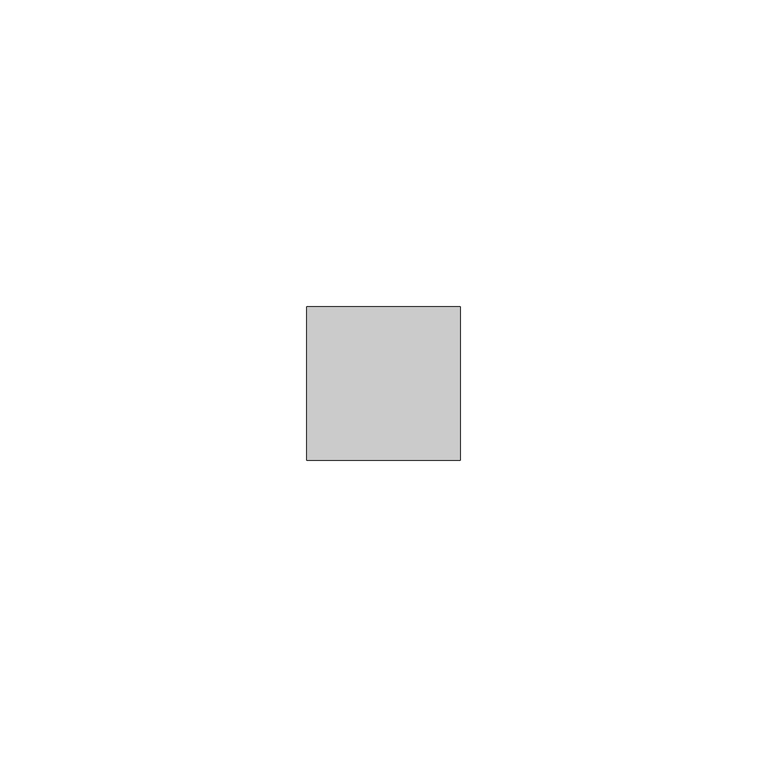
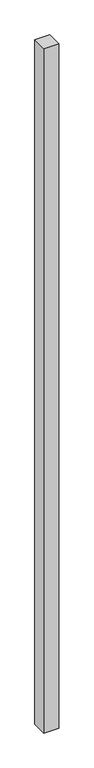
"""IFC4 building model written with IfcOpenShell, lengths in millimetres: member geometry, Obdélníková příčel : VERTI AERO."""

from ifc_helpers import new_model, si_unit, frame, origin, place, context, project, spatial, polyline, outline, extrude, source, transform, mapped, element, save


def member_ca8d964d(model_context):
    return source(origin(), model_context, "Body", "SweptSolid", [
        extrude(outline(polyline([(0.0, 12.5), (0.0, -12.5), (-25.0, -12.5), (-25.0, 12.5), (0.0, 12.5)])), frame((0.0, 0.0, -1200.0), z_axis=(0.0, 0.0, 1.0), x_axis=(1.0, 0.0, 0.0)), (0.0, 0.0, 1.0), 1200.0),
    ])


if __name__ == "__main__":
    model = new_model("IFC4")
    model_context = context("Model", 3, world=origin())
    ifc_project = project(units=[si_unit("LENGTHUNIT", "METRE", prefix="MILLI")], contexts=[model_context])
    site = spatial("IfcSite", under=ifc_project)
    building = spatial("IfcBuilding", under=site)
    placement = place(None, origin())
    member_shape = member_ca8d964d(model_context)
    element("IfcMember", 1, ObjectType="Obdélníková příčel : VERTI AERO", at=placement, inside=building, context=model_context, shape_type="MappedRepresentation", body=[
        mapped(member_shape, transform((0.0, 0.0, 0.0), x_axis=(1.0, 0.0, 0.0), y_axis=(0.0, 1.0, 0.0), z_axis=(0.0, 0.0, 1.0))),
    ])
    save(model, "model.ifc")
